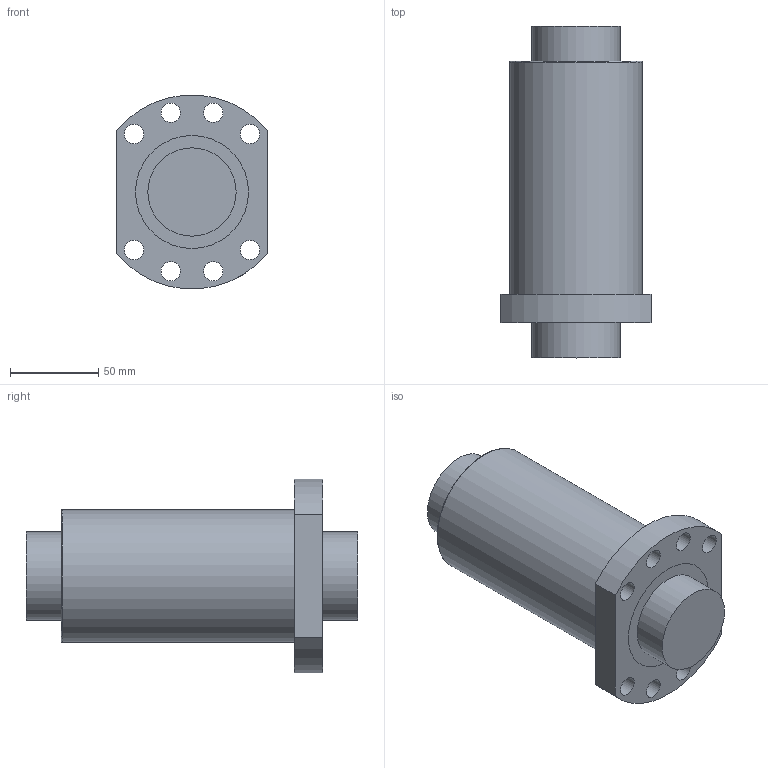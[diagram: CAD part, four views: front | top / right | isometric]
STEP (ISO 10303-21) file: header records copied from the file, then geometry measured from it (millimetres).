
FILE_DESCRIPTION(/* description */ (''),/* implementation_level */ '2;1');
FILE_NAME(/* name */ 'OFU05010-4.stp',/* time_stamp */ '2017-03-13T10:54:59+08:00',/* author */ (''),/* organization */ (''),/* preprocessor_version */ 'ST-DEVELOPER v11',/* originating_system */ 'SIEMENS UGS NX 6.0',/* authorisation */ '');
FILE_SCHEMA (('CONFIG_CONTROL_DESIGN'));
Length unit declared in the file: millimetre
Products named in the file (1): OFU05010-4
Bounding box: 85 x 188 x 109.65 mm (x, y, z)
Volume: 781902.5 mm3; surface area: 118560 mm2
Topology: 4 solids, 4 shells, 36 faces, 79 edges, 55 vertices
Faces by surface type: cylinder 21, plane 14, torus 1
Full cylindrical faces by diameter (mm): 4 x1, 7 x1, 11 x8, 50 x4, 64 x4, 75 x1
Entity records: 1086 total; most frequent: CARTESIAN_POINT 249, DIRECTION 164, ORIENTED_EDGE 102, EDGE_LOOP 84, FACE_BOUND 79, AXIS2_PLACEMENT_3D 78, EDGE_CURVE 51, VERTEX_POINT 47
